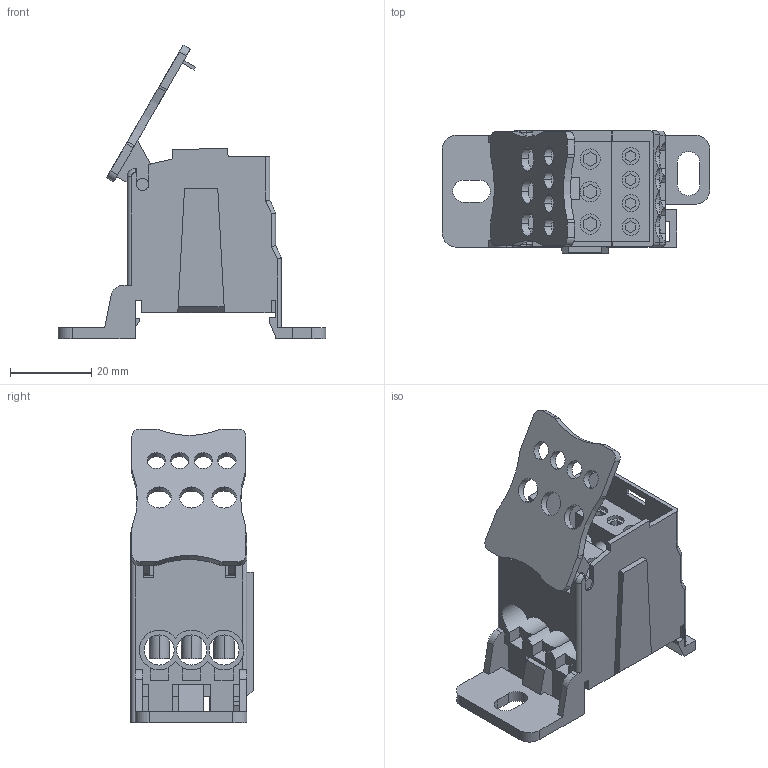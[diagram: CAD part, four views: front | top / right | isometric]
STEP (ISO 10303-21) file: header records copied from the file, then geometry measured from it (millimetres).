
FILE_DESCRIPTION (( 'STEP AP203' ), '1' );
FILE_NAME ('plc-kbr80 Áëîê ÊÁÐ íà DIN-ðåéêó è ìîíòàæíóþ ïàíåëü 80A.STEP', '2017-04-03T09:38:46', ( 'kuryshev' ), ( '' ), 'SwSTEP 2.0', 'SolidWorks 2010', '' );
FILE_SCHEMA (( 'CONFIG_CONTROL_DESIGN' ));
Length unit declared in the file: millimetre
Products named in the file (1): plc-kbr80 Áëîê ÊÁÐ íà DIN-ðåéêó è ìîíòàæíóþ ïàíåëü 80A
Bounding box: 66 x 30.1 x 72.49 mm (x, y, z)
Volume: 22663.3 mm3; surface area: 18755.7 mm2
Topology: 2 solids, 2 shells, 379 faces, 1062 edges, 695 vertices
Faces by surface type: plane 240, cylinder 124, cone 8, bspline 4, torus 3
Entity records: 13012 total; most frequent: CARTESIAN_POINT 2999, ORIENTED_EDGE 2124, DIRECTION 2007, EDGE_CURVE 1062, VECTOR 745, LINE 745, VERTEX_POINT 695, AXIS2_PLACEMENT_3D 631
